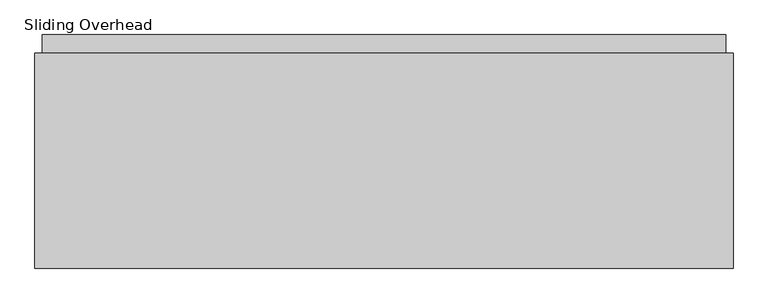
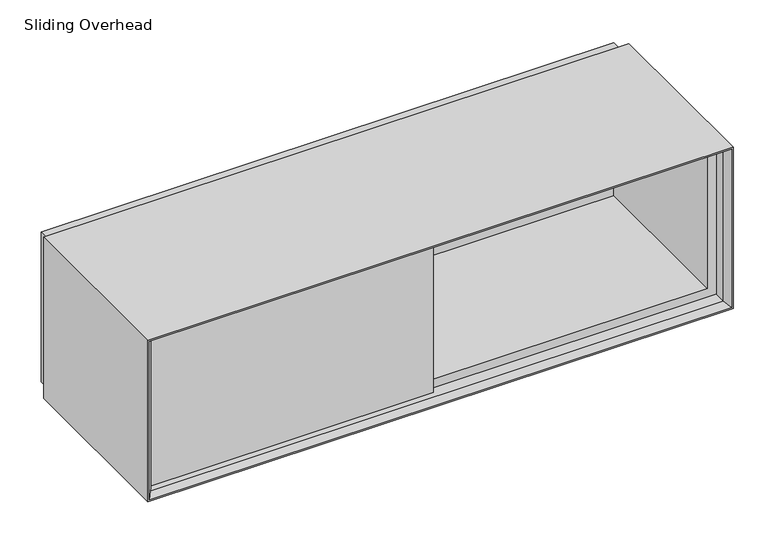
"""IFC4 building model written with IfcOpenShell, lengths in millimetres: furniture geometry."""

from ifc_helpers import new_model, si_unit, frame, origin, place, context, project, spatial, polyline, outline, extrude, faceted_brep, source, transform, mapped, element, save


def sliding_overhead_8f52506d(model_context):
    return source(origin(), model_context, "Body", "SolidModel", [
        extrude(outline(polyline([(609.6, 38.1), (31.75, 38.1), (31.75, 50.8), (609.6, 50.8), (609.6, 38.1)])), frame((0.0, 0.0, 1250.95), z_axis=(0.0, 0.0, 1.0), x_axis=(1.0, 0.0, 0.0)), (0.0, 0.0, 1.0), 292.1),
        extrude(outline(polyline([(609.6, 25.4), (12.7, 25.4), (12.7, 38.1), (609.6, 38.1), (609.6, 25.4)])), frame((0.0, 0.0, 1231.9), z_axis=(0.0, 0.0, 1.0), x_axis=(1.0, 0.0, 0.0)), (0.0, 0.0, 1.0), 330.2),
        extrude(outline(polyline([(615.95, 376.2375), (615.95, 50.8), (603.25, 50.8), (603.25, 376.2375), (615.95, 376.2375)])), frame((0.0, 0.0, 1250.95), z_axis=(0.0, 0.0, 1.0), x_axis=(1.0, 0.0, 0.0)), (0.0, 0.0, 1.0), 292.1),
        extrude(outline(polyline([(1206.5, 376.2375), (12.7, 376.2375), (12.7, 407.9875), (1206.5, 407.9875), (1206.5, 376.2375)])), frame((0.0, 0.0, 1231.9), z_axis=(0.0, 0.0, 1.0), x_axis=(1.0, 0.0, 0.0)), (0.0, 0.0, 1.0), 330.2),
        extrude(outline(polyline([(1562.1, 1206.5), (1562.1, 12.7), (1231.9, 12.7), (1231.9, 1206.5), (1562.1, 1206.5)]), holes=[polyline([(1543.05, 31.75), (1543.05, 1187.45), (1250.95, 1187.45), (1250.95, 31.75), (1543.05, 31.75)])]), frame((0.0, 38.1, 0.0), z_axis=(0.0, 1.0, 0.0), x_axis=(0.0, 0.0, 1.0)), (0.0, 0.0, 1.0), 338.1375),
        faceted_brep([(1206.5, 12.7, 1562.1), (1206.5, 376.2375, 1562.1), (1206.5, 376.2375, 1231.9), (1206.5, 12.7, 1231.9), (1216.025, 0.0, 1571.625), (1216.025, 0.0, 1222.375), (1219.2, 376.2375, 1574.8), (1219.2, 0.0, 1574.8), (1219.2, 0.0, 1219.2), (1219.2, 376.2375, 1219.2), (12.7, 376.2375, 1231.9), (12.7, 12.7, 1231.9), (3.175, 0.0, 1222.375), (0.0, 0.0, 1219.2), (0.0, 376.2375, 1219.2), (12.7, 376.2375, 1562.1), (12.7, 12.7, 1562.1), (3.175, 0.0, 1571.625), (0.0, 0.0, 1574.8), (0.0, 376.2375, 1574.8)], [[[0, 1, 2, 3]], [[4, 0, 3, 5]], [[6, 7, 8, 9]], [[3, 2, 10, 11]], [[5, 3, 11, 12]], [[9, 8, 13, 14]], [[11, 10, 15, 16]], [[12, 11, 16, 17]], [[14, 13, 18, 19]], [[9, 14, 19, 6], [1, 15, 10, 2]], [[16, 15, 1, 0]], [[17, 16, 0, 4]], [[7, 18, 13, 8], [5, 12, 17, 4]], [[19, 18, 7, 6]]]),
    ])


if __name__ == "__main__":
    model = new_model("IFC4")
    model_context = context("Model", 3, world=origin())
    ifc_project = project(units=[si_unit("LENGTHUNIT", "METRE", prefix="MILLI")], contexts=[model_context])
    site = spatial("IfcSite", under=ifc_project)
    building = spatial("IfcBuilding", under=site)
    placement = place(None, origin())
    sliding_overhead_shape = sliding_overhead_8f52506d(model_context)
    element("IfcFurniture", 1, ObjectType="Sliding Overhead : 1 1/4\" Backpanel - 48\" W", at=placement, inside=building, context=model_context, shape_type="MappedRepresentation", body=[
        mapped(sliding_overhead_shape, transform((0.0, 0.0, 0.0), x_axis=(1.0, 0.0, 0.0), y_axis=(0.0, 1.0, 0.0), z_axis=(0.0, 0.0, 1.0))),
    ])
    save(model, "model.ifc")
